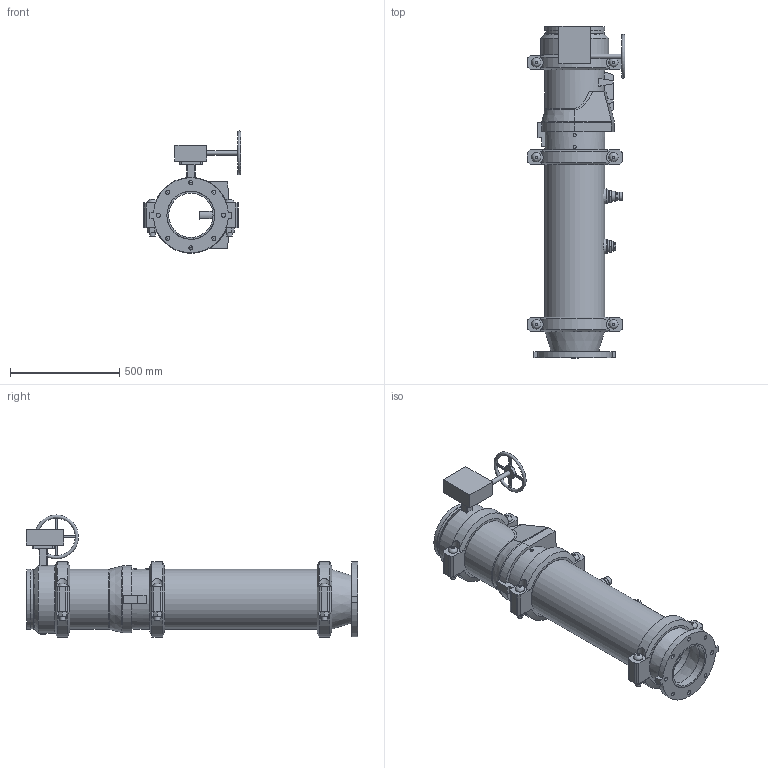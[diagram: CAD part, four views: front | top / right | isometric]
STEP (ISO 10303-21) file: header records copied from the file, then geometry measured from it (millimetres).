
FILE_DESCRIPTION(/* description */ ('VIC DVI PUMP DROP VERT S/380 (OGSxFLG) (S/924-0.75)','CAx-IF Rec.Pracs.---Representation and Presentation of Product Manufacturing Information (PMI)---4.0---2014-10-13'),/* implementation_level */ '2;1');
FILE_NAME(/* name */ 'C:\Users\Public\Documents\Victaulic.Temp\A765\Victaulic_IPS_Vertical DVI_CL 150_Series 380 (OGSxFLG)_924 (0.75)_10.0x08.0 (250x200).stp',/* time_stamp */ '2022-07-25T11:14:15+02:00',/* author */ ('Vjadhav'),/* organization */ ('Victaulic'),/* preprocessor_version */ 'ST-DEVELOPER v18',/* originating_system */ 'Autodesk Inventor 2020',/* authorisation */ '');
FILE_SCHEMA (('AP242_MANAGED_MODEL_BASED_3D_ENGINEERING_MIM_LF { 1 0 10303 442 1 1 4 }'));
Length unit declared in the file: inch
Products named in the file (9): 380_924 (0.75)-10.0x08.0; 741-08.0; 050-10.0x08.0; Pipe-10.0; 779-10.0; 923-10.0x0.75; 924-10.0x0.75; 761-10.0; 077-10.0
Assembly tree (10 placements, depth 2):
  380_924 (0.75)-10.0x08.0
    741-08.0
    050-10.0x08.0
    Pipe-10.0
    779-10.0
    923-10.0x0.75
    924-10.0x0.75
    761-10.0
    077-10.0  x3
Bounding box: 445.64 x 1517.4 x 558.01 mm (x, y, z)
Volume: 29490201.1 mm3; surface area: 3967902.7 mm2
Topology: 10 solids, 17 shells, 492 faces, 1236 edges, 842 vertices
Faces by surface type: plane 297, cylinder 160, cone 20, bspline 8, torus 7
Full cylindrical faces by diameter (mm): 10.922 x4, 12.7 x1, 13.716 x4, 19.05 x8, 20.066 x1, 21.336 x1, 22.86 x1, 25.4 x12, 26.67 x2, 27.432 x6, 38.608 x1, 45.974 x4, 55.626 x2, 63.079 x1, 70.104 x1, 76.2 x1, 202.717 x1, 214.401 x1, 219.075 x3, 254.508 x4, 264.16 x3, 268.275 x7, 273.05 x19, 311.15 x1
Entity records: 12741 total; most frequent: CARTESIAN_POINT 2574, DIRECTION 2066, ORIENTED_EDGE 1892, EDGE_CURVE 946, AXIS2_PLACEMENT_3D 788, VERTEX_POINT 646, LINE 490, VECTOR 490
